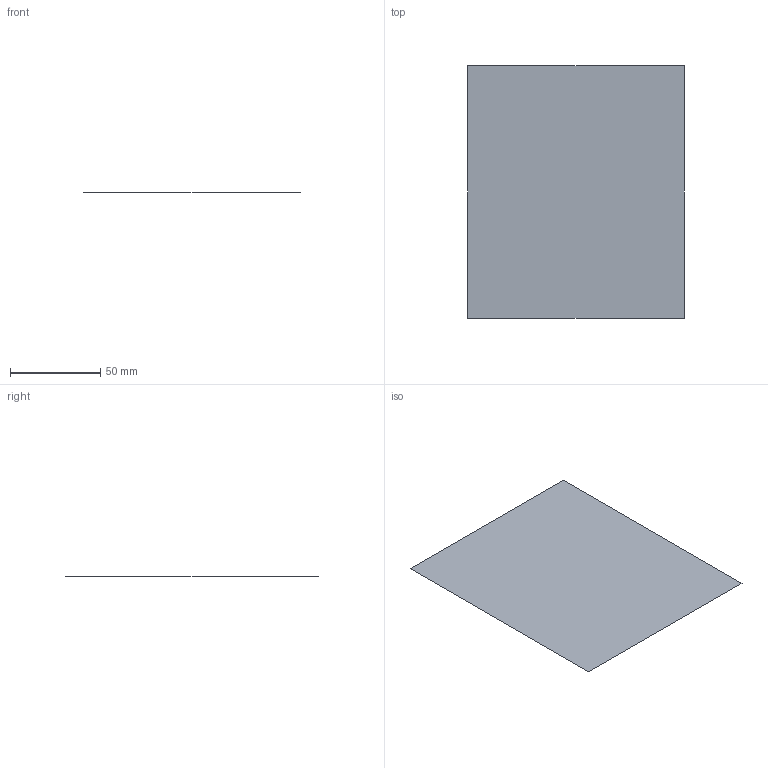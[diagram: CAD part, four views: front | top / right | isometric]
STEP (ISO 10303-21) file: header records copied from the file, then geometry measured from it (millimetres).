
FILE_DESCRIPTION(('CATIA V5 STEP Exchange'),'2;1');
FILE_NAME('C:\_Andres\UNIVERSIDAD\IQS\ASIGNATURAS\DAO\EXF\EXF-15161c\1original\Garcia_Granada_Ej06-calculo_v30.stp','2016-03-04T20:57:44+00:00',('none'),('none'),'CATIA Version 5 Release 20 SP 1 (IN-10)','CATIA V5 STEP AP203','none');
FILE_SCHEMA(('CONFIG_CONTROL_DESIGN'));
Length unit declared in the file: millimetre
Products named in the file (1): Garcia_Granada_Ej06-calculo_v30
Bounding box: 120 x 140 x 0 mm (x, y, z)
Surface area: 16800 mm2 (no closed solid volume)
Topology: 0 solids, 1 shells, 1 faces, 8 edges, 9 vertices
Faces by surface type: plane 1
Entity records: 130 total; most frequent: CARTESIAN_POINT 23, DIRECTION 12, VECTOR 8, LINE 8, COMPOSITE_CURVE_SEGMENT 4, ORIENTED_EDGE 4, CC_DESIGN_PERSON_AND_ORGANIZATION_ASSIGNMENT 4, PERSON_AND_ORGANIZATION_ROLE 4
